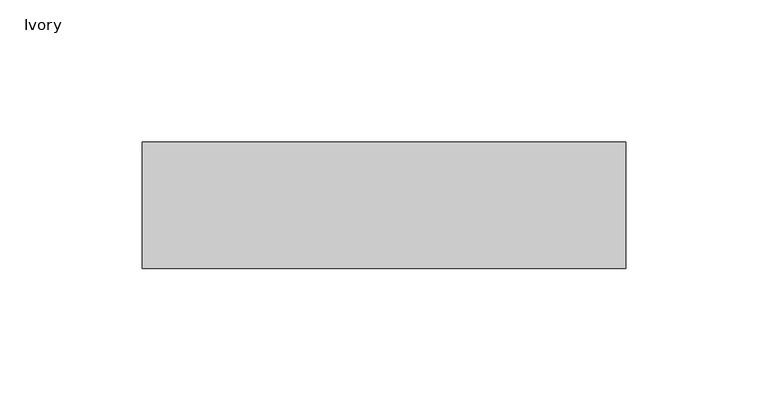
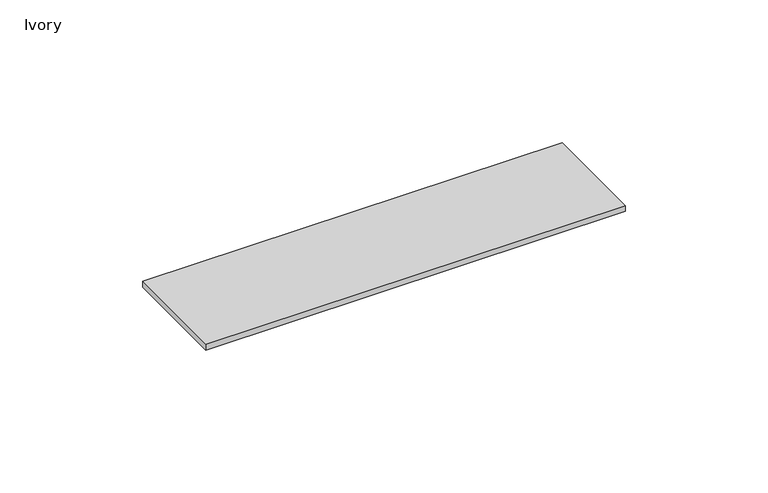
"""IFC4 building model written with IfcOpenShell, lengths in millimetres: proxy geometry, End_Cap-5500_Series-Wiremold : Ivory."""

from ifc_helpers import new_model, si_unit, origin, origin_with_axes, place, context, project, spatial, polyline, outline, extrude, source, transform, mapped, element, save


def ivory_bd3593d5(model_context):
    return source(origin(), model_context, "Body", "SweptSolid", [
        extrude(outline(polyline([(84.9376, 22.225), (84.9376, -22.225), (-84.9376, -22.225), (-84.9376, 22.225), (84.9376, 22.225)])), origin_with_axes(), (0.0, 0.0, 1.0), 2.54),
    ])


if __name__ == "__main__":
    model = new_model("IFC4")
    model_context = context("Model", 3, world=origin())
    ifc_project = project(units=[si_unit("LENGTHUNIT", "METRE", prefix="MILLI")], contexts=[model_context])
    site = spatial("IfcSite", under=ifc_project)
    building = spatial("IfcBuilding", under=site)
    placement = place(None, origin())
    ivory_shape = ivory_bd3593d5(model_context)
    element("IfcBuildingElementProxy", 1, Name="End_Cap-5500_Series-Wiremold : Ivory", ObjectType="End_Cap-5500_Series-Wiremold : Ivory", at=placement, inside=building, context=model_context, shape_type="MappedRepresentation", body=[
        mapped(ivory_shape, transform((0.0, 0.0, 0.0), x_axis=(1.0, 0.0, 0.0), y_axis=(0.0, 1.0, 0.0), z_axis=(0.0, 0.0, 1.0))),
    ])
    save(model, "model.ifc")
